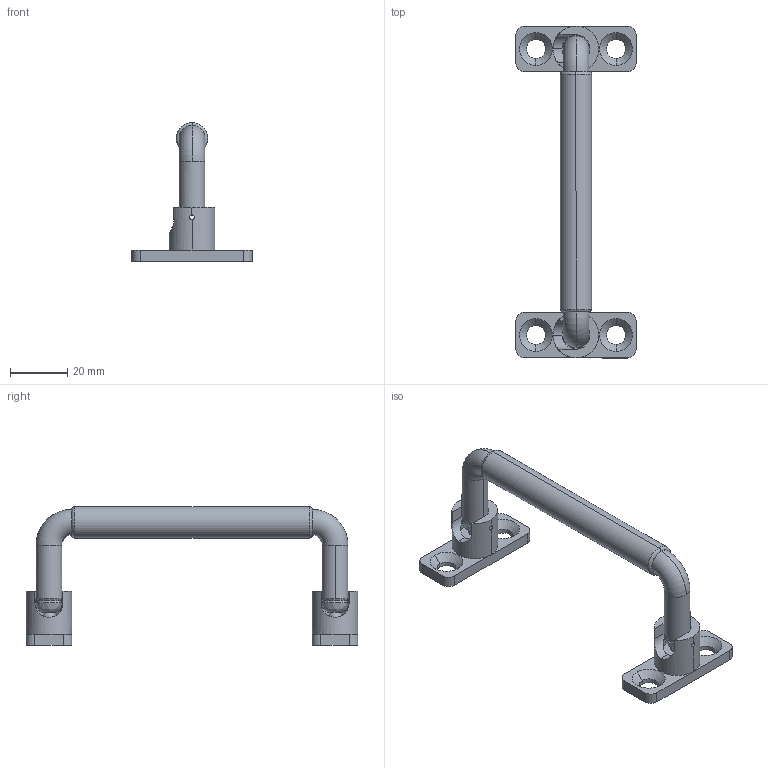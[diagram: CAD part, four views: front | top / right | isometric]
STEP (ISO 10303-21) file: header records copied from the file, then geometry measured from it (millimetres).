
FILE_DESCRIPTION (( 'STEP AP214' ), '1' );
FILE_NAME ('LS526.STEP', '2023-06-28T01:12:49', ( 'Windows 蚚誧' ), ( '' ), 'SwSTEP 2.0', 'SolidWorks 2019', '' );
FILE_SCHEMA (( 'AUTOMOTIVE_DESIGN' ));
Length unit declared in the file: millimetre
Products named in the file (1): LS526
Bounding box: 42 x 116 x 48.55 mm (x, y, z)
Volume: 20895.1 mm3; surface area: 15425.6 mm2
Topology: 6 solids, 6 shells, 152 faces, 393 edges, 237 vertices
Faces by surface type: cylinder 60, plane 52, torus 20, cone 12, sphere 4, bspline 4
Entity records: 6601 total; most frequent: CARTESIAN_POINT 1217, DIRECTION 764, ORIENTED_EDGE 762, EDGE_CURVE 381, AXIS2_PLACEMENT_3D 300, VERTEX_POINT 233, EDGE_LOOP 166, VECTOR 164
